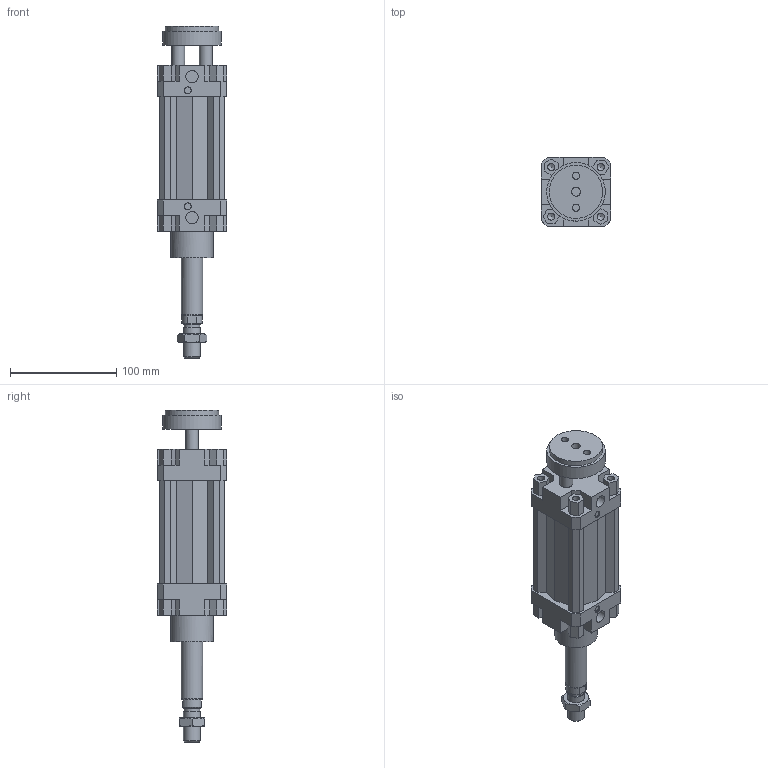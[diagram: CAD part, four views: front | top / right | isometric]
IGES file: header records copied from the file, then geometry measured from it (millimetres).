
Global section: file name: 132#_050_0050_02; native system: Autodesk Inventor 2014; preprocessor: unknown; author: A. Manieri; date: 20161006.155653; units: millimetre
Bounding box: 65 x 65 x 312 mm (x, y, z)
Volume: 519727.3 mm3; surface area: 124161.7 mm2
Topology: 3 solids, 3 shells, 220 faces, 590 edges, 398 vertices
Faces by surface type: bspline 220
